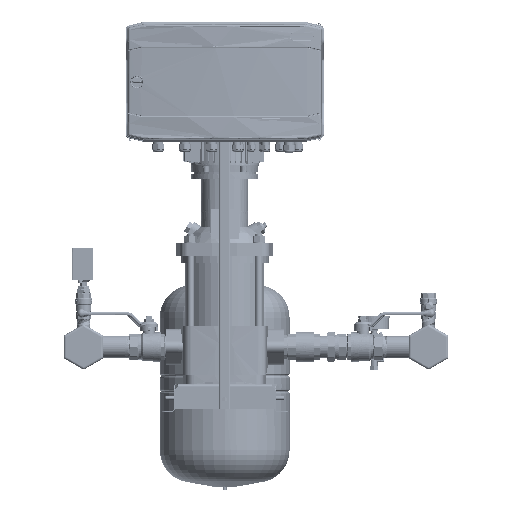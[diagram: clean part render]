
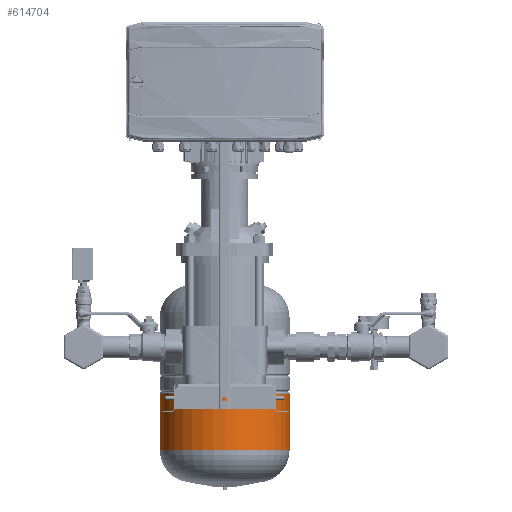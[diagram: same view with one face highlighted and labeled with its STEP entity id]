
A CAD part, left-side view. The second image highlights one B-rep face of the part: STEP entity #614704.
In plain terms, the highlighted cylindrical face has radius 140 mm (diameter 280 mm), a partial arc.
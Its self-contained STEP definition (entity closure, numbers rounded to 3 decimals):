
#607813=CARTESIAN_POINT('Vertex',(-140.,0.,-20.533)) ;
#607816=CARTESIAN_POINT('Axis2P3D Location',(0.,0.,-20.533)) ;
#607820=CARTESIAN_POINT('Vertex',(0.,-140.,-20.533)) ;
#607875=CARTESIAN_POINT('Vertex',(0.,140.,-20.533)) ;
#607878=CARTESIAN_POINT('Axis2P3D Location',(0.,0.,-20.533)) ;
#614619=CARTESIAN_POINT('Axis2P3D Location',(0.,0.,-85.867)) ;
#614624=CARTESIAN_POINT('Line Origine',(0.,140.,-85.867)) ;
#614628=CARTESIAN_POINT('Vertex',(0.,140.,-142.492)) ;
#614631=CARTESIAN_POINT('Line Origine',(0.,-140.,-85.867)) ;
#614635=CARTESIAN_POINT('Vertex',(0.,-140.,-142.492)) ;
#614673=CARTESIAN_POINT('Control Point',(-140.,0.,-142.492)) ;
#614674=CARTESIAN_POINT('Control Point',(-140.,21.991,-142.492)) ;
#614675=CARTESIAN_POINT('Control Point',(-135.682,43.982,-142.492)) ;
#614676=CARTESIAN_POINT('Control Point',(-127.042,64.842,-142.492)) ;
#614677=CARTESIAN_POINT('Control Point',(-102.048,102.048,-142.492)) ;
#614678=CARTESIAN_POINT('Control Point',(-64.842,127.042,-142.492)) ;
#614679=CARTESIAN_POINT('Control Point',(-43.982,135.682,-142.492)) ;
#614680=CARTESIAN_POINT('Control Point',(-21.991,140.,-142.492)) ;
#614681=CARTESIAN_POINT('Control Point',(0.,140.,-142.492)) ;
#614682=CARTESIAN_POINT('Vertex',(-140.,0.,-142.492)) ;
#614686=CARTESIAN_POINT('Control Point',(0.,-140.,-142.492)) ;
#614687=CARTESIAN_POINT('Control Point',(-21.991,-140.,-142.492)) ;
#614688=CARTESIAN_POINT('Control Point',(-43.982,-135.682,-142.492)) ;
#614689=CARTESIAN_POINT('Control Point',(-64.842,-127.042,-142.492)) ;
#614690=CARTESIAN_POINT('Control Point',(-102.048,-102.048,-142.492)) ;
#614691=CARTESIAN_POINT('Control Point',(-127.042,-64.842,-142.492)) ;
#614692=CARTESIAN_POINT('Control Point',(-135.682,-43.982,-142.492)) ;
#614693=CARTESIAN_POINT('Control Point',(-140.,-21.991,-142.492)) ;
#614694=CARTESIAN_POINT('Control Point',(-140.,0.,-142.492)) ;
#614626=VECTOR('Line Direction',#614625,1.) ;
#614633=VECTOR('Line Direction',#614632,1.) ;
#607817=DIRECTION('Axis2P3D Direction',(0.,0.,-1.)) ;
#607879=DIRECTION('Axis2P3D Direction',(0.,0.,-1.)) ;
#614620=DIRECTION('Axis2P3D Direction',(0.,0.,-1.)) ;
#614621=DIRECTION('Axis2P3D XDirection',(0.,-1.,0.)) ;
#614625=DIRECTION('Vector Direction',(0.,0.,-1.)) ;
#614632=DIRECTION('Vector Direction',(0.,0.,-1.)) ;
#607818=AXIS2_PLACEMENT_3D('Circle Axis2P3D',#607816,#607817,$) ;
#607880=AXIS2_PLACEMENT_3D('Circle Axis2P3D',#607878,#607879,$) ;
#614622=AXIS2_PLACEMENT_3D('Cylinder Axis2P3D',#614619,#614620,#614621) ;
#614627=LINE('Line',#614624,#614626) ;
#614634=LINE('Line',#614631,#614633) ;
#607819=CIRCLE('generated circle',#607818,140.) ;
#607881=CIRCLE('generated circle',#607880,140.) ;
#614623=CYLINDRICAL_SURFACE('generated cylinder',#614622,140.) ;
#607822=EDGE_CURVE('',#607814,#607821,#607819,.F.) ;
#607882=EDGE_CURVE('',#607876,#607814,#607881,.F.) ;
#614630=EDGE_CURVE('',#607876,#614629,#614627,.T.) ;
#614637=EDGE_CURVE('',#614636,#607821,#614634,.F.) ;
#614684=EDGE_CURVE('',#614683,#614629,#614672,.T.) ;
#614695=EDGE_CURVE('',#614636,#614683,#614685,.T.) ;
#614697=ORIENTED_EDGE('',*,*,#614637,.T.) ;
#614698=ORIENTED_EDGE('',*,*,#607822,.F.) ;
#614699=ORIENTED_EDGE('',*,*,#607882,.F.) ;
#614700=ORIENTED_EDGE('',*,*,#614630,.T.) ;
#614701=ORIENTED_EDGE('',*,*,#614684,.F.) ;
#614702=ORIENTED_EDGE('',*,*,#614695,.F.) ;
#614696=EDGE_LOOP('',(#614697,#614698,#614699,#614700,#614701,#614702)) ;
#607814=VERTEX_POINT('',#607813) ;
#607821=VERTEX_POINT('',#607820) ;
#607876=VERTEX_POINT('',#607875) ;
#614629=VERTEX_POINT('',#614628) ;
#614636=VERTEX_POINT('',#614635) ;
#614683=VERTEX_POINT('',#614682) ;
#614704=ADVANCED_FACE('MANIFOLD_SOLID_BREP #40',(#614703),#614623,.T.) ;
#614672=B_SPLINE_CURVE_WITH_KNOTS('',5,(#614673,#614674,#614675,#614676,#614677,#614678,#614679,#614680,#614681),.UNSPECIFIED.,.F.,.U.,(6,3,6),(0.,109.956,219.911),.UNSPECIFIED.) ;
#614685=B_SPLINE_CURVE_WITH_KNOTS('',5,(#614686,#614687,#614688,#614689,#614690,#614691,#614692,#614693,#614694),.UNSPECIFIED.,.F.,.U.,(6,3,6),(-219.911,-109.956,0.),.UNSPECIFIED.) ;
#614703=FACE_OUTER_BOUND('',#614696,.T.) ;
